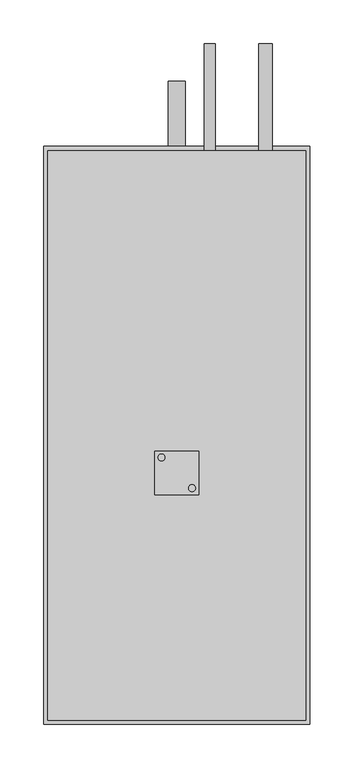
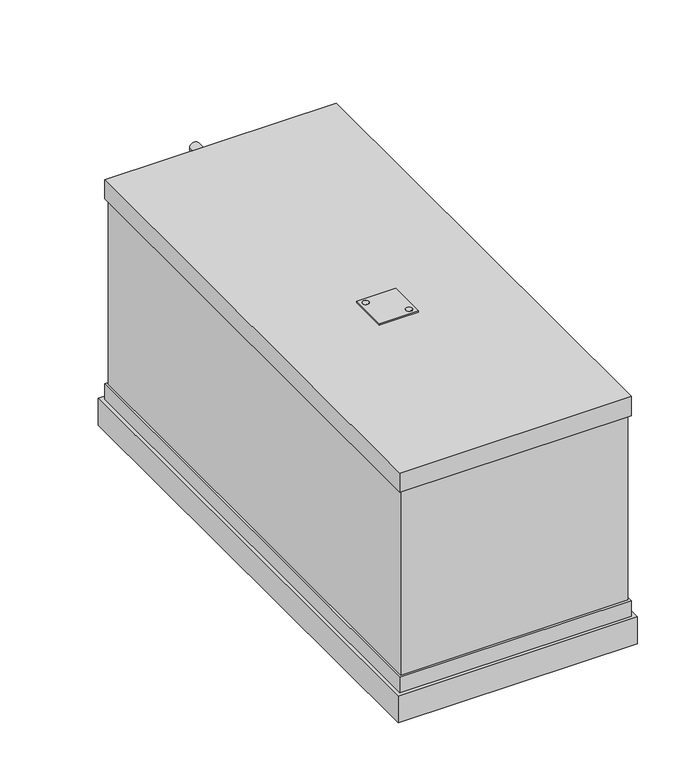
"""IFC4 building model written with IfcOpenShell, lengths in millimetres: proxy geometry, KORF_Воздухоохладитель_Фреоновый_FLO_Правый : FLO 50-25."""

from ifc_helpers import new_model, si_unit, point, frame, frame_2d, origin, place, context, project, spatial, polyline, circle_curve, trimmed, segment, composite_curve, outline, extrude, faceted_brep, source, transform, mapped, element, save


def mechanical_equipment_082081eb(model_context):
    return source(origin(), model_context, "Body", "SolidModel", [
        extrude(outline(composite_curve([segment(trimmed(circle_curve(frame_2d((170.5727066, -17.5745746)), 4.0), [point((174.5727066, -17.5745746))], [point((166.5727066, -17.5745746))], False, "CARTESIAN"), True, "CONTINUOUS"), segment(trimmed(circle_curve(frame_2d((170.5727066, -17.5745746)), 4.0), [point((166.5727066, -17.5745746))], [point((174.5727066, -17.5745746))], False, "CARTESIAN"), True, "CONTINUOUS")], self_intersect=False)), frame((0.0, 0.0, 151.0), z_axis=(0.0, 0.0, 1.0), x_axis=(1.0, 0.0, 0.0)), (0.0, 0.0, 1.0), 2.0),
        extrude(outline(composite_curve([segment(trimmed(circle_curve(frame_2d((135.4272934, 17.5745746)), 4.0), [point((131.4272934, 17.5745746))], [point((139.4272934, 17.5745746))], False, "CARTESIAN"), True, "CONTINUOUS"), segment(trimmed(circle_curve(frame_2d((135.4272934, 17.5745746)), 4.0), [point((139.4272934, 17.5745746))], [point((131.4272934, 17.5745746))], False, "CARTESIAN"), True, "CONTINUOUS")], self_intersect=False)), frame((0.0, 0.0, 151.0), z_axis=(0.0, 0.0, 1.0), x_axis=(1.0, 0.0, 0.0)), (0.0, 0.0, 1.0), 2.0),
        extrude(outline(polyline([(128.0, -25.0), (128.0, 25.0), (178.0, 25.0), (178.0, -25.0), (128.0, -25.0)]), holes=[composite_curve([segment(trimmed(circle_curve(frame_2d((170.5727066, -17.5745746)), 4.0), [point((174.5727066, -17.5745746))], [point((166.5727066, -17.5745746))], True, "CARTESIAN"), True, "CONTINUOUS"), segment(trimmed(circle_curve(frame_2d((170.5727066, -17.5745746)), 4.0), [point((166.5727066, -17.5745746))], [point((174.5727066, -17.5745746))], True, "CARTESIAN"), True, "CONTINUOUS")], self_intersect=False), composite_curve([segment(trimmed(circle_curve(frame_2d((135.4272934, 17.5745746)), 4.0), [point((131.4272934, 17.5745746))], [point((139.4272934, 17.5745746))], True, "CARTESIAN"), True, "CONTINUOUS"), segment(trimmed(circle_curve(frame_2d((135.4272934, 17.5745746)), 4.0), [point((139.4272934, 17.5745746))], [point((131.4272934, 17.5745746))], True, "CARTESIAN"), True, "CONTINUOUS")], self_intersect=False)]), frame((0.0, 0.0, 151.0), z_axis=(0.0, 0.0, 1.0), x_axis=(1.0, 0.0, 0.0)), (0.0, 0.0, 1.0), 2.0),
        faceted_brep([(306.0, -289.0, -146.0), (306.0, -289.0, -182.0), (306.0, 375.0, -182.0), (306.0, 375.0, -146.0), (0.0, -289.0, -146.0), (0.0, 375.0, -146.0), (0.0, 375.0, -182.0), (0.0, -289.0, -182.0), (301.0, 370.0, -146.0), (301.0, -284.0, -146.0), (5.0, -284.0, -146.0), (5.0, 370.0, -146.0), (298.0, -281.0, 125.0), (298.0, -281.0, -125.0), (298.0, -250.0, -125.0), (298.0, 250.0, -125.0), (298.0, 367.0, -125.0), (298.0, 367.0, 125.0), (298.0, 250.0, 125.0), (298.0, -250.0, 125.0), (8.0, 367.0, 125.0), (8.0, 367.0, -125.0), (8.0, 250.0, -125.0), (8.0, -250.0, -125.0), (8.0, -281.0, -125.0), (8.0, -281.0, 125.0), (8.0, -250.0, 125.0), (8.0, 250.0, 125.0), (301.0, -284.0, 125.0), (301.0, 370.0, 125.0), (301.0, 370.0, 151.0), (301.0, -284.0, 151.0), (301.0, -284.0, -125.0), (301.0, 370.0, -125.0), (5.0, -284.0, 125.0), (5.0, -284.0, 151.0), (5.0, 370.0, 151.0), (5.0, 370.0, 125.0), (5.0, -284.0, -125.0), (5.0, 370.0, -125.0)], [[[0, 1, 2, 3]], [[4, 5, 6, 7]], [[1, 0, 4, 7]], [[2, 1, 7, 6]], [[3, 2, 6, 5]], [[0, 3, 5, 4], [8, 9, 10, 11]], [[12, 13, 14, 15, 16, 17, 18, 19]], [[20, 21, 22, 23, 24, 25, 26, 27]], [[13, 12, 25, 24]], [[17, 16, 21, 20]], [[28, 29, 30, 31]], [[32, 9, 8, 33]], [[34, 35, 36, 37]], [[38, 39, 11, 10]], [[29, 28, 34, 37], [12, 19, 18, 17, 20, 27, 26, 25]], [[30, 29, 37, 36]], [[31, 30, 36, 35]], [[28, 31, 35, 34]], [[9, 32, 38, 10]], [[33, 8, 11, 39]], [[32, 33, 39, 38], [14, 13, 24, 23, 22, 21, 16, 15]]]),
        extrude(outline(composite_curve([segment(trimmed(circle_curve(frame_2d((-74.0, 255.0)), 7.94), [point((-74.0, 247.06))], [point((-74.0, 262.94))], False, "CARTESIAN"), True, "CONTINUOUS"), segment(trimmed(circle_curve(frame_2d((-74.0, 255.0)), 7.94), [point((-74.0, 262.94))], [point((-74.0, 247.06))], False, "CARTESIAN"), True, "CONTINUOUS")], self_intersect=False)), frame((0.0, 367.0, 0.0), z_axis=(0.0, 1.0, 0.0), x_axis=(0.0, 0.0, 1.0)), (0.0, 0.0, 1.0), 126.0),
        extrude(outline(composite_curve([segment(trimmed(circle_curve(frame_2d((56.0, 191.0)), 6.35), [point((56.0, 184.65))], [point((56.0, 197.35))], False, "CARTESIAN"), True, "CONTINUOUS"), segment(trimmed(circle_curve(frame_2d((56.0, 191.0)), 6.35), [point((56.0, 197.35))], [point((56.0, 184.65))], False, "CARTESIAN"), True, "CONTINUOUS")], self_intersect=False)), frame((0.0, 367.0, 0.0), z_axis=(0.0, 1.0, 0.0), x_axis=(0.0, 0.0, 1.0)), (0.0, 0.0, 1.0), 126.0),
        extrude(outline(composite_curve([segment(trimmed(circle_curve(frame_2d((-164.0, 153.0)), 10.0), [point((-164.0, 143.0))], [point((-164.0, 163.0))], False, "CARTESIAN"), True, "CONTINUOUS"), segment(trimmed(circle_curve(frame_2d((-164.0, 153.0)), 10.0), [point((-164.0, 163.0))], [point((-164.0, 143.0))], False, "CARTESIAN"), True, "CONTINUOUS")], self_intersect=False)), frame((0.0, 375.0, 0.0), z_axis=(0.0, 1.0, 0.0), x_axis=(0.0, 0.0, 1.0)), (0.0, 0.0, 1.0), 75.0),
    ])


if __name__ == "__main__":
    model = new_model("IFC4")
    model_context = context("Model", 3, world=origin())
    ifc_project = project(units=[si_unit("LENGTHUNIT", "METRE", prefix="MILLI")], contexts=[model_context])
    site = spatial("IfcSite", under=ifc_project)
    building = spatial("IfcBuilding", under=site)
    placement = place(None, origin())
    mechanical_equipment_shape = mechanical_equipment_082081eb(model_context)
    element("IfcBuildingElementProxy", 1, Name="KORF_Воздухоохладитель_Фреоновый_FLO_Правый : FLO 50-25", ObjectType="KORF_Воздухоохладитель_Фреоновый_FLO_Правый : FLO 50-25", at=placement, inside=building, context=model_context, shape_type="MappedRepresentation", body=[
        mapped(mechanical_equipment_shape, transform((0.0, 0.0, 0.0), x_axis=(1.0, 0.0, 0.0), y_axis=(0.0, 1.0, 0.0), z_axis=(0.0, 0.0, 1.0))),
    ])
    save(model, "model.ifc")
